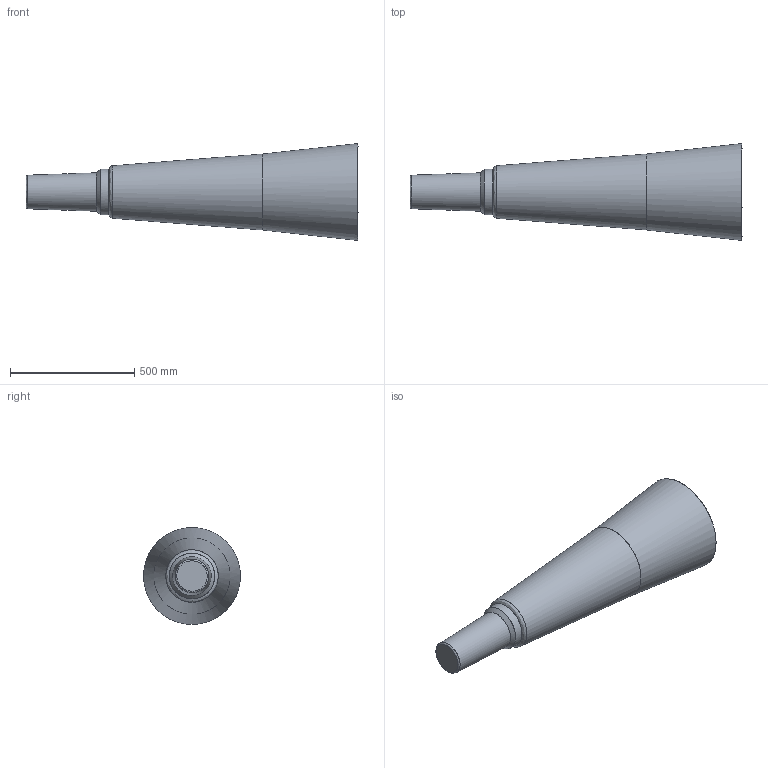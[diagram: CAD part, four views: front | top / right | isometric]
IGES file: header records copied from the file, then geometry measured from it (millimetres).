
Global section: file name: Z:\prj2.1\wind_tunnels\NTF\outgoing\NTF_Rumsey_October_2023\NTF_Arc_Sector_Straight_Sting_0deg_2023_10_02.igs; native system: NX V12.0; preprocessor: SIEMENS PLM Software NX 12.0; date: 20231003.102704; units: inch
Bounding box: 1333.6 x 388.72 x 388.72 mm (x, y, z)
Surface area: 1218003.6 mm2 (no closed solid volume)
Topology: 0 solids, 0 shells, 9 faces, 62 edges, 50 vertices
Faces by surface type: bspline 9
